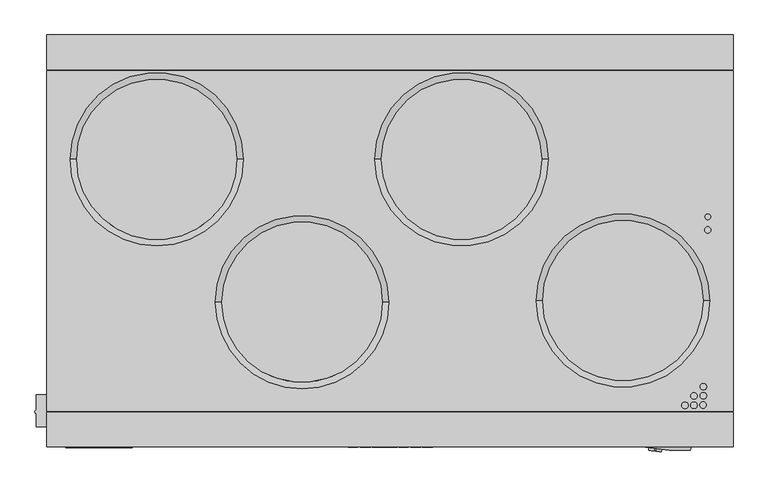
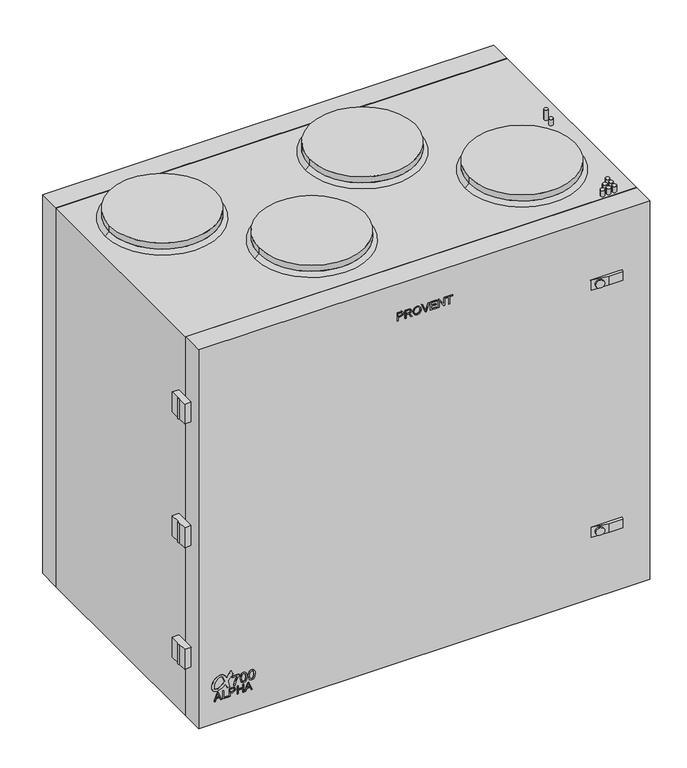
"""IFC4 building model written with IfcOpenShell, lengths in millimetres: proxy geometry, PROVENT_Вертикальная приточно-вытяжная установка_ALPHA 700 V_R : Provent ALPHA 700 V (R)."""

from ifc_helpers import new_model, si_unit, point, frame, frame_2d, origin, origin_with_axes, place, context, project, spatial, polyline, circle_curve, trimmed, segment, composite_curve, outline, extrude, faceted_brep, source, transform, mapped, element, save
from ifc_brep_helpers import plane_surface, revolved_surface, advanced_brep


def mechanical_equipment_19987ac5(model_context):
    return source(origin(), model_context, "Body", "SolidModel", [
        extrude(outline(composite_curve([segment(trimmed(circle_curve(frame_2d((105.733129, -469.7172285)), 0.5380284), [point((105.5307619, -469.2187086))], [point((105.5307619, -470.2157485))], True, "CARTESIAN"), True, "CONTINUOUS"), segment(polyline([(105.5307619, -470.2157485), (108.4438718, -471.3339866), (110.8786758, -472.5745812), (111.8121807, -473.2282283)]), True, "CONTINUOUS"), segment(trimmed(circle_curve(frame_2d((104.0893382, -483.1986343)), 12.6115539), [point((111.8121807, -473.2282283))], [point((116.6261852, -484.5693123))], False, "CARTESIAN"), True, "CONTINUOUS"), segment(trimmed(circle_curve(frame_2d((94.7661112, -482.1793077)), 21.9903379), [point((116.6261852, -484.5693123))], [point((104.4885666, -501.9036282))], False, "CARTESIAN"), True, "CONTINUOUS"), segment(trimmed(circle_curve(frame_2d((93.5739124, -483.3717485)), 21.5072137), [point((104.4885666, -501.9036282))], [point((86.750764, -503.7679464))], False, "CARTESIAN"), True, "CONTINUOUS"), segment(trimmed(circle_curve(frame_2d((92.3890877, -492.6444211)), 12.4709065), [point((86.750764, -503.7679464))], [point((79.9366704, -491.96559))], False, "CARTESIAN"), True, "CONTINUOUS"), segment(trimmed(circle_curve(frame_2d((110.0461474, -495.6698446)), 30.3364814), [point((79.9366704, -491.96559))], [point((90.1381753, -472.7793498))], False, "CARTESIAN"), True, "CONTINUOUS"), segment(polyline([(90.1381753, -472.7793498), (97.4533974, -475.1562096)]), True, "CONTINUOUS"), segment(trimmed(circle_curve(frame_2d((112.8376087, -500.6183522)), 29.7488598), [point((97.4533974, -475.1562096))], [point((85.9068624, -487.9799358))], True, "CARTESIAN"), True, "CONTINUOUS"), segment(trimmed(circle_curve(frame_2d((94.2043298, -491.873881)), 9.1657392), [point((85.9068624, -487.9799358))], [point((86.5295452, -496.8847148))], True, "CARTESIAN"), True, "CONTINUOUS"), segment(trimmed(circle_curve(frame_2d((91.0798658, -493.9138301)), 5.4342961), [point((86.5295452, -496.8847148))], [point((91.5402338, -499.3285909))], True, "CARTESIAN"), True, "CONTINUOUS"), segment(trimmed(circle_curve(frame_2d((91.5850962, -480.5773432)), 18.7513014), [point((91.5402338, -499.3285909))], [point((99.8454243, -497.4111866))], True, "CARTESIAN"), True, "CONTINUOUS"), segment(trimmed(circle_curve(frame_2d((91.1893595, -472.3485631)), 26.5153267), [point((99.8454243, -497.4111866))], [point((111.1844004, -489.7629506))], True, "CARTESIAN"), True, "CONTINUOUS"), segment(trimmed(circle_curve(frame_2d((105.8571487, -485.1232588)), 7.0644427), [point((111.1844004, -489.7629506))], [point((110.4868357, -479.7873101))], True, "CARTESIAN"), True, "CONTINUOUS"), segment(trimmed(circle_curve(frame_2d((74.7273898, -542.4080198)), 72.1116583), [point((110.4868357, -479.7873101))], [point((96.0155477, -473.5102289))], True, "CARTESIAN"), True, "CONTINUOUS"), segment(polyline([(96.0155477, -473.5102289), (80.1999436, -468.3714276), (80.1999436, -462.3371341), (94.9084674, -466.1382316)]), True, "CONTINUOUS"), segment(trimmed(circle_curve(frame_2d((95.7729921, -462.7929129)), 3.4552222), [point((94.9084674, -466.1382316))], [point((98.5138308, -464.8968055))], True, "CARTESIAN"), True, "CONTINUOUS"), segment(polyline([(98.5138308, -464.8968055), (109.4841363, -454.6668301)]), True, "CONTINUOUS"), segment(trimmed(circle_curve(frame_2d((110.1625275, -455.3943155)), 0.9947108), [point((109.4841363, -454.6668301))], [point((110.8409186, -454.6668301))], False, "CARTESIAN"), True, "CONTINUOUS"), segment(polyline([(110.8409186, -454.6668301), (118.9566741, -458.6251485)]), True, "CONTINUOUS"), segment(trimmed(circle_curve(frame_2d((118.472789, -458.9687429)), 0.593466), [point((118.9566741, -458.6251485))], [point((118.8242858, -459.4469185))], False, "CARTESIAN"), True, "CONTINUOUS"), segment(polyline([(118.8242858, -459.4469185), (105.5307619, -469.2187086)]), True, "CONTINUOUS")], self_intersect=False)), frame((0.0, -322.0, 0.0), z_axis=(0.0, 1.0, 0.0), x_axis=(0.0, 0.0, 1.0)), (0.0, 0.0, 1.0), 1.0),
        extrude(outline(polyline([(55.4809879, -499.5161911), (55.4809879, -496.8625356), (61.7595073, -494.566952), (61.7595073, -486.2920597), (55.4809879, -483.9915709), (55.4809879, -481.3379155), (75.57225, -489.3577429), (75.57225, -491.4963636), (55.4809879, -499.5161911)]), holes=[polyline([(64.2709151, -493.6447945), (69.6419922, -491.6778521), (73.0608422, -490.4270533), (69.210344, -489.0192915), (64.2709151, -487.2093121), (64.2709151, -493.6447945)])]), frame((0.0, -322.0, 0.0), z_axis=(0.0, 1.0, 0.0), x_axis=(0.0, 0.0, 1.0)), (0.0, 0.0, 1.0), 5.0),
        extrude(outline(polyline([(55.4809879, -478.6548294), (55.4809879, -466.0977907), (57.9923957, -466.0977907), (57.9923957, -476.1434217), (75.57225, -476.1434217), (75.57225, -478.6548294), (55.4809879, -478.6548294)])), frame((0.0, -322.0, 0.0), z_axis=(0.0, 1.0, 0.0), x_axis=(0.0, 0.0, 1.0)), (0.0, 0.0, 1.0), 5.0),
        extrude(outline(polyline([(55.4809879, -463.2724569), (55.4809879, -460.7610492), (63.6430631, -460.7610492), (63.6430631, -455.6548471), (65.4187069, -449.8202387), (69.7597144, -448.2040104), (72.499209, -448.8024318), (74.441626, -450.3843244), (75.3809513, -452.8246083), (75.57225, -455.8265254), (75.57225, -463.2724569), (55.4809879, -463.2724569)]), holes=[polyline([(66.1544709, -460.7610492), (73.0608422, -460.7610492), (73.0608422, -455.5665554), (72.8891639, -453.0551477), (71.7511823, -451.3604379), (69.6714228, -450.7154182), (67.0766284, -451.809254), (66.1544709, -455.5076943), (66.1544709, -460.7610492)])]), frame((0.0, -322.0, 0.0), z_axis=(0.0, 1.0, 0.0), x_axis=(0.0, 0.0, 1.0)), (0.0, 0.0, 1.0), 5.0),
        extrude(outline(polyline([(55.4809879, -444.7508248), (55.4809879, -442.239417), (64.898767, -442.239417), (64.898767, -431.5659341), (55.4809879, -431.5659341), (55.4809879, -429.0545263), (75.57225, -429.0545263), (75.57225, -431.5659341), (67.4101748, -431.5659341), (67.4101748, -442.239417), (75.57225, -442.239417), (75.57225, -444.7508248), (55.4809879, -444.7508248)])), frame((0.0, -322.0, 0.0), z_axis=(0.0, 1.0, 0.0), x_axis=(0.0, 0.0, 1.0)), (0.0, 0.0, 1.0), 5.0),
        extrude(outline(polyline([(55.4809879, -426.9992922), (55.4809879, -424.3456368), (61.7595073, -422.0500531), (61.7595073, -413.7751608), (55.4809879, -411.474672), (55.4809879, -408.8210166), (75.57225, -416.8408441), (75.57225, -418.9794647), (55.4809879, -426.9992922)]), holes=[polyline([(64.2709151, -421.1278956), (69.6419922, -419.1609532), (73.0608422, -417.9101544), (69.210344, -416.5023926), (64.2709151, -414.6924132), (64.2709151, -421.1278956)])]), frame((0.0, -322.0, 0.0), z_axis=(0.0, 1.0, 0.0), x_axis=(0.0, 0.0, 1.0)), (0.0, 0.0, 1.0), 5.0),
        extrude(outline(polyline([(101.1927708, -456.6535478), (101.1927708, -443.3116941), (94.6965879, -448.0573718), (86.6920888, -451.48174), (79.6103604, -452.7294731), (79.6103604, -449.5902135), (86.4345714, -448.4252538), (95.0399444, -444.8476014), (101.7936447, -440.1724344), (104.3320305, -440.1724344), (104.3320305, -456.6535478), (101.1927708, -456.6535478)])), frame((0.0, -322.0, 0.0), z_axis=(0.0, 1.0, 0.0), x_axis=(0.0, 0.0, 1.0)), (0.0, 0.0, 1.0), 5.0),
        extrude(outline(polyline([(91.9650641, -437.4255822), (81.6091859, -434.9239846), (79.2179529, -429.1850255), (80.5944447, -424.5895662), (84.7699054, -421.8580424), (91.9650641, -420.9444688), (97.8665044, -421.5146859), (101.5821126, -422.9862138), (103.9150975, -425.5184682), (104.7244379, -429.1850255), (103.3571432, -433.7620906), (99.1908796, -436.5028115), (91.9650641, -437.4255822)]), holes=[polyline([(91.9711954, -434.2863225), (99.9051838, -432.7657435), (101.5851782, -429.2218137), (99.6783232, -425.5062055), (91.9711954, -424.0837285), (84.1812942, -425.5552564), (82.3572126, -429.1850255), (84.1751628, -432.8147945), (91.9711954, -434.2863225)])]), frame((0.0, -322.0, 0.0), z_axis=(0.0, 1.0, 0.0), x_axis=(0.0, 0.0, 1.0)), (0.0, 0.0, 1.0), 5.0),
        extrude(outline(polyline([(91.9650641, -418.1976165), (81.6091859, -415.696019), (79.2179529, -409.9570598), (80.5944447, -405.3616006), (84.7699054, -402.6300768), (91.9650641, -401.7165032), (97.8665044, -402.2867202), (101.5821126, -403.7582482), (103.9150975, -406.2905026), (104.7244379, -409.9570598), (103.3571432, -414.534125), (99.1908796, -417.2748459), (91.9650641, -418.1976165)]), holes=[polyline([(91.9711954, -415.0583568), (99.9051838, -413.5377779), (101.5851782, -409.993848), (99.6783232, -406.2782399), (91.9711954, -404.8557628), (84.1812942, -406.3272908), (82.3572126, -409.9570598), (84.1751628, -413.5868289), (91.9711954, -415.0583568)])]), frame((0.0, -322.0, 0.0), z_axis=(0.0, 1.0, 0.0), x_axis=(0.0, 0.0, 1.0)), (0.0, 0.0, 1.0), 5.0),
        extrude(outline(polyline([(858.040157, -64.9826756), (858.040157, -62.4712679), (866.2022322, -62.4712679), (866.2022322, -57.3650658), (867.977876, -51.5304573), (872.3188835, -49.9142291), (875.0583781, -50.5126505), (877.0007951, -52.0945431), (877.9401204, -54.534827), (878.1314191, -57.536744), (878.1314191, -64.9826756), (858.040157, -64.9826756)]), holes=[polyline([(868.71364, -62.4712679), (875.6200113, -62.4712679), (875.6200113, -57.2767741), (875.448333, -54.7653663), (874.3103514, -53.0706566), (872.2305919, -52.4256369), (869.6357975, -53.5194727), (868.71364, -57.217913), (868.71364, -62.4712679)])]), frame((0.0, -322.0, 0.0), z_axis=(0.0, 1.0, 0.0), x_axis=(0.0, 0.0, 1.0)), (0.0, 0.0, 1.0), 5.0),
        extrude(outline(polyline([(858.040157, -46.4610434), (858.040157, -43.9496357), (866.8300842, -43.9496357), (866.2635459, -38.2670851), (864.9612436, -36.9402574), (862.2045812, -35.0517965), (858.040157, -32.4373818), (858.040157, -29.5188513), (863.4848106, -32.86903), (866.0697947, -34.9046437), (867.1440101, -36.3320258), (869.0128507, -32.1259084), (872.6328095, -30.764745), (875.6715148, -31.5863481), (877.5894063, -33.7838299), (878.1314191, -37.8035538), (878.1314191, -46.4610434), (858.040157, -46.4610434)]), holes=[polyline([(869.3414919, -43.9496357), (875.6200113, -43.9496357), (875.6200113, -37.6956418), (874.7518098, -34.3381054), (872.5396127, -33.2761527), (870.8350928, -33.8328808), (869.6971112, -35.4613718), (869.3414919, -38.3283988), (869.3414919, -43.9496357)])]), frame((0.0, -322.0, 0.0), z_axis=(0.0, 1.0, 0.0), x_axis=(0.0, 0.0, 1.0)), (0.0, 0.0, 1.0), 5.0),
        extrude(outline(polyline([(867.820913, -27.3115593), (862.8201704, -26.1637675), (859.0922995, -22.7890633), (857.7262311, -17.7368173), (858.9623146, -12.8734173), (862.6018938, -9.3908011), (868.0514524, -8.1620752), (873.4274346, -9.3294874), (877.1209698, -12.7238119), (878.445345, -17.722102), (875.6249164, -24.6333784), (867.820913, -27.3115593)]), holes=[polyline([(867.7963875, -24.8001516), (874.0577391, -22.7056767), (875.9339373, -17.7073867), (874.9602763, -14.0212091), (872.2158766, -11.5269692), (868.0710728, -10.673483), (862.2781576, -12.6674034), (860.2376388, -17.7515325), (862.2585372, -22.7915159), (867.7963875, -24.8001516)])]), frame((0.0, -322.0, 0.0), z_axis=(0.0, 1.0, 0.0), x_axis=(0.0, 0.0, 1.0)), (0.0, 0.0, 1.0), 5.0),
        extrude(outline(polyline([(858.040157, 1.2262733), (858.040157, 3.8210677), (878.1314191, 11.4779182), (878.1314191, 8.7899271), (863.6564888, 3.4237551), (860.3946018, 2.3544448), (863.6564888, 1.2704192), (878.1314191, -4.0810376), (878.1314191, -6.7690287), (858.040157, 1.2262733)])), frame((0.0, -322.0, 0.0), z_axis=(0.0, 1.0, 0.0), x_axis=(0.0, 0.0, 1.0)), (0.0, 0.0, 1.0), 5.0),
        extrude(outline(polyline([(858.040157, 13.8127426), (858.040157, 28.5672632), (860.5515648, 28.5672632), (860.5515648, 16.3241504), (867.1440101, 16.3241504), (867.1440101, 27.6254853), (869.6554179, 27.6254853), (869.6554179, 16.3241504), (875.6200113, 16.3241504), (875.6200113, 28.2533372), (878.1314191, 28.2533372), (878.1314191, 13.8127426), (858.040157, 13.8127426)])), frame((0.0, -322.0, 0.0), z_axis=(0.0, 1.0, 0.0), x_axis=(0.0, 0.0, 1.0)), (0.0, 0.0, 1.0), 5.0),
        extrude(outline(polyline([(858.040157, 32.3343748), (858.040157, 34.8457826), (873.9620898, 34.8457826), (858.040157, 45.3426822), (858.040157, 48.0306733), (878.1314191, 48.0306733), (878.1314191, 45.5192655), (862.2143914, 45.5192655), (878.1314191, 35.0223659), (878.1314191, 32.3343748), (858.040157, 32.3343748)])), frame((0.0, -322.0, 0.0), z_axis=(0.0, 1.0, 0.0), x_axis=(0.0, 0.0, 1.0)), (0.0, 0.0, 1.0), 5.0),
        extrude(outline(polyline([(858.040157, 57.4484524), (858.040157, 59.9598601), (875.6200113, 59.9598601), (875.6200113, 66.5523055), (878.1314191, 66.5523055), (878.1314191, 50.856007), (875.6200113, 50.856007), (875.6200113, 57.4484524), (858.040157, 57.4484524)])), frame((0.0, -322.0, 0.0), z_axis=(0.0, 1.0, 0.0), x_axis=(0.0, 0.0, 1.0)), (0.0, 0.0, 1.0), 5.0),
        extrude(outline(composite_curve([segment(trimmed(circle_curve(frame_2d((495.5549535, 37.5161614)), 4.363615), [point((491.1913384, 37.5161614))], [point((499.9185685, 37.5161614))], False, "CARTESIAN"), True, "CONTINUOUS"), segment(trimmed(circle_curve(frame_2d((495.5549535, 37.5161614)), 4.363615), [point((499.9185685, 37.5161614))], [point((491.1913384, 37.5161614))], False, "CARTESIAN"), True, "CONTINUOUS")], self_intersect=False)), frame((0.0, 0.0, 950.0), z_axis=(0.0, 0.0, 1.0), x_axis=(1.0, 0.0, 0.0)), (0.0, 0.0, 1.0), 26.0),
        extrude(outline(composite_curve([segment(trimmed(circle_curve(frame_2d((495.5549535, 17.0594523)), 5.0), [point((490.5549535, 17.0594523))], [point((500.5549535, 17.0594523))], False, "CARTESIAN"), True, "CONTINUOUS"), segment(trimmed(circle_curve(frame_2d((495.5549535, 17.0594523)), 5.0), [point((500.5549535, 17.0594523))], [point((490.5549535, 17.0594523))], False, "CARTESIAN"), True, "CONTINUOUS")], self_intersect=False)), frame((0.0, 0.0, 950.0), z_axis=(0.0, 0.0, 1.0), x_axis=(1.0, 0.0, 0.0)), (0.0, 0.0, 1.0), 15.0),
        extrude(outline(composite_curve([segment(trimmed(circle_curve(frame_2d((488.6799535, -241.3585618)), 5.0), [point((483.6799535, -241.3585618))], [point((493.6799535, -241.3585618))], False, "CARTESIAN"), True, "CONTINUOUS"), segment(trimmed(circle_curve(frame_2d((488.6799535, -241.3585618)), 5.0), [point((493.6799535, -241.3585618))], [point((483.6799535, -241.3585618))], False, "CARTESIAN"), True, "CONTINUOUS")], self_intersect=False)), frame((0.0, 0.0, 950.0), z_axis=(0.0, 0.0, 1.0), x_axis=(1.0, 0.0, 0.0)), (0.0, 0.0, 1.0), 15.0),
        extrude(outline(composite_curve([segment(trimmed(circle_curve(frame_2d((473.9405338, -256.2023118)), 5.0), [point((468.9405338, -256.2023118))], [point((478.9405338, -256.2023118))], False, "CARTESIAN"), True, "CONTINUOUS"), segment(trimmed(circle_curve(frame_2d((473.9405338, -256.2023118)), 5.0), [point((478.9405338, -256.2023118))], [point((468.9405338, -256.2023118))], False, "CARTESIAN"), True, "CONTINUOUS")], self_intersect=False)), frame((0.0, 0.0, 950.0), z_axis=(0.0, 0.0, 1.0), x_axis=(1.0, 0.0, 0.0)), (0.0, 0.0, 1.0), 15.0),
        extrude(outline(composite_curve([segment(trimmed(circle_curve(frame_2d((459.9299535, -256.3585618)), 5.0), [point((454.9299535, -256.3585618))], [point((464.9299535, -256.3585618))], False, "CARTESIAN"), True, "CONTINUOUS"), segment(trimmed(circle_curve(frame_2d((459.9299535, -256.3585618)), 5.0), [point((464.9299535, -256.3585618))], [point((454.9299535, -256.3585618))], False, "CARTESIAN"), True, "CONTINUOUS")], self_intersect=False)), frame((0.0, 0.0, 950.0), z_axis=(0.0, 0.0, 1.0), x_axis=(1.0, 0.0, 0.0)), (0.0, 0.0, 1.0), 15.0),
        extrude(outline(composite_curve([segment(trimmed(circle_curve(frame_2d((488.6799535, -227.2960618)), 5.0), [point((483.6799535, -227.2960618))], [point((493.6799535, -227.2960618))], False, "CARTESIAN"), True, "CONTINUOUS"), segment(trimmed(circle_curve(frame_2d((488.6799535, -227.2960618)), 5.0), [point((493.6799535, -227.2960618))], [point((483.6799535, -227.2960618))], False, "CARTESIAN"), True, "CONTINUOUS")], self_intersect=False)), frame((0.0, 0.0, 950.0), z_axis=(0.0, 0.0, 1.0), x_axis=(1.0, 0.0, 0.0)), (0.0, 0.0, 1.0), 15.0),
        extrude(outline(composite_curve([segment(trimmed(circle_curve(frame_2d((488.120726, -255.7335618)), 5.0), [point((483.120726, -255.7335618))], [point((493.120726, -255.7335618))], False, "CARTESIAN"), True, "CONTINUOUS"), segment(trimmed(circle_curve(frame_2d((488.120726, -255.7335618)), 5.0), [point((493.120726, -255.7335618))], [point((483.120726, -255.7335618))], False, "CARTESIAN"), True, "CONTINUOUS")], self_intersect=False)), frame((0.0, 0.0, 950.0), z_axis=(0.0, 0.0, 1.0), x_axis=(1.0, 0.0, 0.0)), (0.0, 0.0, 1.0), 15.0),
        extrude(outline(composite_curve([segment(trimmed(circle_curve(frame_2d((473.9405338, -241.5938936)), 5.0), [point((468.9405338, -241.5938936))], [point((478.9405338, -241.5938936))], False, "CARTESIAN"), True, "CONTINUOUS"), segment(trimmed(circle_curve(frame_2d((473.9405338, -241.5938936)), 5.0), [point((478.9405338, -241.5938936))], [point((468.9405338, -241.5938936))], False, "CARTESIAN"), True, "CONTINUOUS")], self_intersect=False)), frame((0.0, 0.0, 950.0), z_axis=(0.0, 0.0, 1.0), x_axis=(1.0, 0.0, 0.0)), (0.0, 0.0, 1.0), 15.0),
        extrude(outline(composite_curve([segment(trimmed(circle_curve(frame_2d((363.25, -93.0)), 125.0), [point((238.25, -93.0))], [point((488.25, -93.0))], False, "CARTESIAN"), True, "CONTINUOUS"), segment(trimmed(circle_curve(frame_2d((363.25, -93.0)), 125.0), [point((488.25, -93.0))], [point((238.25, -93.0))], False, "CARTESIAN"), True, "CONTINUOUS")], self_intersect=False)), frame((0.0, 0.0, 958.5199387), z_axis=(0.0, 0.0, 1.0), x_axis=(1.0, 0.0, 0.0)), (0.0, 0.0, 1.0), 15.0),
        advanced_brep(
        [(238.25, -93.0, 958.5199387), (488.25, -93.0, 958.5199387), (228.25, -93.0, 950.0), (498.25, -93.0, 950.0)],
        [
            (0, 1, circle_curve(frame((363.25, -93.0, 958.5199387), z_axis=(0.0, 0.0, 1.0), x_axis=(-1.0, 0.0, 0.0)), 125.0)),
            (1, 0, circle_curve(frame((363.25, -93.0, 958.5199387), z_axis=(0.0, 0.0, 1.0), x_axis=(1.0, 0.0, 0.0)), 125.0)),
            (2, 3, circle_curve(frame((363.25, -93.0, 950.0), z_axis=(0.0, 0.0, -1.0), x_axis=(1.0, 0.0, 0.0)), 135.0)),
            (3, 2, circle_curve(frame((363.25, -93.0, 950.0), z_axis=(0.0, 0.0, -1.0), x_axis=(-1.0, 0.0, 0.0)), 135.0)),
            (3, 1),
            (0, 2),
        ],
        [
            plane_surface(frame((363.25, -93.0, 958.5199387), z_axis=(0.0, 0.0, 1.0), x_axis=(0.0, -1.0, 0.0))),
            plane_surface(frame((363.25, -93.0, 950.0), z_axis=(0.0, 0.0, -1.0), x_axis=(0.0, -1.0, 0.0))),
            revolved_surface(polyline([(238.2500000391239, -93.0, 958.5199387), (228.25, -93.0, 950.0)]), (363.25, -93.0, 1065.019172), (0.0, 0.0, -1.0)),
            revolved_surface(polyline([(488.2499999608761, -93.0, 958.5199387), (498.25, -93.0, 950.0)]), (363.25, -93.0, 1065.019172), (0.0, 0.0, -1.0)),
        ],
        [
            (0, [[1, 2]]),
            (1, [[3, 4]]),
            (2, [[-4, 5, -1, 6]]),
            (3, [[-3, -6, -2, -5]]),
        ],
    ),
        extrude(outline(composite_curve([segment(trimmed(circle_curve(frame_2d((-136.75, -95.5)), 125.0), [point((-261.75, -95.5))], [point((-11.75, -95.5))], False, "CARTESIAN"), True, "CONTINUOUS"), segment(trimmed(circle_curve(frame_2d((-136.75, -95.5)), 125.0), [point((-11.75, -95.5))], [point((-261.75, -95.5))], False, "CARTESIAN"), True, "CONTINUOUS")], self_intersect=False)), frame((0.0, 0.0, 958.5199387), z_axis=(0.0, 0.0, 1.0), x_axis=(1.0, 0.0, 0.0)), (0.0, 0.0, 1.0), 15.0),
        advanced_brep(
        [(-261.75, -95.5, 958.5199387), (-11.75, -95.5, 958.5199387), (-271.75, -95.5, 950.0), (-1.75, -95.5, 950.0)],
        [
            (0, 1, circle_curve(frame((-136.75, -95.5, 958.5199387), z_axis=(0.0, 0.0, 1.0), x_axis=(-1.0, 0.0, 0.0)), 125.0)),
            (1, 0, circle_curve(frame((-136.75, -95.5, 958.5199387), z_axis=(0.0, 0.0, 1.0), x_axis=(1.0, 0.0, 0.0)), 125.0)),
            (2, 3, circle_curve(frame((-136.75, -95.5, 950.0), z_axis=(0.0, 0.0, -1.0), x_axis=(1.0, 0.0, 0.0)), 135.0)),
            (3, 2, circle_curve(frame((-136.75, -95.5, 950.0), z_axis=(0.0, 0.0, -1.0), x_axis=(-1.0, 0.0, 0.0)), 135.0)),
            (3, 1),
            (0, 2),
        ],
        [
            plane_surface(frame((-136.75, -95.5, 958.5199387), z_axis=(0.0, 0.0, 1.0), x_axis=(0.0, -1.0, 0.0))),
            plane_surface(frame((-136.75, -95.5, 950.0), z_axis=(0.0, 0.0, -1.0), x_axis=(0.0, -1.0, 0.0))),
            revolved_surface(polyline([(-261.7499999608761, -95.5, 958.5199387), (-271.75, -95.5, 950.0)]), (-136.75, -95.5, 1065.019172), (0.0, 0.0, -1.0)),
            revolved_surface(polyline([(-11.750000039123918, -95.5, 958.5199387), (-1.75, -95.5, 950.0)]), (-136.75, -95.5, 1065.019172), (0.0, 0.0, -1.0)),
        ],
        [
            (0, [[1, 2]]),
            (1, [[3, 4]]),
            (2, [[-4, 5, -1, 6]]),
            (3, [[-3, -6, -2, -5]]),
        ],
    ),
        extrude(outline(composite_curve([segment(trimmed(circle_curve(frame_2d((-363.25, 127.0881439)), 125.0), [point((-488.25, 127.0881439))], [point((-238.25, 127.0881439))], False, "CARTESIAN"), True, "CONTINUOUS"), segment(trimmed(circle_curve(frame_2d((-363.25, 127.0881439)), 125.0), [point((-238.25, 127.0881439))], [point((-488.25, 127.0881439))], False, "CARTESIAN"), True, "CONTINUOUS")], self_intersect=False)), frame((0.0, 0.0, 958.5199387), z_axis=(0.0, 0.0, 1.0), x_axis=(1.0, 0.0, 0.0)), (0.0, 0.0, 1.0), 15.0),
        advanced_brep(
        [(-488.25, 127.0881439, 958.5199387), (-238.25, 127.0881439, 958.5199387), (-498.25, 127.0881439, 950.0), (-228.25, 127.0881439, 950.0)],
        [
            (0, 1, circle_curve(frame((-363.25, 127.0881439, 958.5199387), z_axis=(0.0, 0.0, 1.0), x_axis=(-1.0, 0.0, 0.0)), 125.0)),
            (1, 0, circle_curve(frame((-363.25, 127.0881439, 958.5199387), z_axis=(0.0, 0.0, 1.0), x_axis=(1.0, 0.0, 0.0)), 125.0)),
            (2, 3, circle_curve(frame((-363.25, 127.0881439, 950.0), z_axis=(0.0, 0.0, -1.0), x_axis=(1.0, 0.0, 0.0)), 135.0)),
            (3, 2, circle_curve(frame((-363.25, 127.0881439, 950.0), z_axis=(0.0, 0.0, -1.0), x_axis=(-1.0, 0.0, 0.0)), 135.0)),
            (3, 1),
            (0, 2),
        ],
        [
            plane_surface(frame((-363.25, 127.0881439, 958.5199387), z_axis=(0.0, 0.0, 1.0), x_axis=(0.0, -1.0, 0.0))),
            plane_surface(frame((-363.25, 127.0881439, 950.0), z_axis=(0.0, 0.0, -1.0), x_axis=(0.0, -1.0, 0.0))),
            revolved_surface(polyline([(-488.2499999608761, 127.0881439, 958.5199387), (-498.25, 127.0881439, 950.0)]), (-363.25, 127.0881439, 1065.019172), (0.0, 0.0, -1.0)),
            revolved_surface(polyline([(-238.2500000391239, 127.0881439, 958.5199387), (-228.25, 127.0881439, 950.0)]), (-363.25, 127.0881439, 1065.019172), (0.0, 0.0, -1.0)),
        ],
        [
            (0, [[1, 2]]),
            (1, [[3, 4]]),
            (2, [[-4, 5, -1, 6]]),
            (3, [[-3, -6, -2, -5]]),
        ],
    ),
        extrude(outline(composite_curve([segment(trimmed(circle_curve(frame_2d((111.75, 127.0881439)), 125.0), [point((-13.25, 127.0881439))], [point((236.75, 127.0881439))], False, "CARTESIAN"), True, "CONTINUOUS"), segment(trimmed(circle_curve(frame_2d((111.75, 127.0881439)), 125.0), [point((236.75, 127.0881439))], [point((-13.25, 127.0881439))], False, "CARTESIAN"), True, "CONTINUOUS")], self_intersect=False)), frame((0.0, 0.0, 958.5199387), z_axis=(0.0, 0.0, 1.0), x_axis=(1.0, 0.0, 0.0)), (0.0, 0.0, 1.0), 15.0),
        advanced_brep(
        [(-13.25, 127.0881439, 958.5199387), (236.75, 127.0881439, 958.5199387), (-23.25, 127.0881439, 950.0), (246.75, 127.0881439, 950.0)],
        [
            (0, 1, circle_curve(frame((111.75, 127.0881439, 958.5199387), z_axis=(0.0, 0.0, 1.0), x_axis=(-1.0, 0.0, 0.0)), 125.0)),
            (1, 0, circle_curve(frame((111.75, 127.0881439, 958.5199387), z_axis=(0.0, 0.0, 1.0), x_axis=(1.0, 0.0, 0.0)), 125.0)),
            (2, 3, circle_curve(frame((111.75, 127.0881439, 950.0), z_axis=(0.0, 0.0, -1.0), x_axis=(1.0, 0.0, 0.0)), 135.0)),
            (3, 2, circle_curve(frame((111.75, 127.0881439, 950.0), z_axis=(0.0, 0.0, -1.0), x_axis=(-1.0, 0.0, 0.0)), 135.0)),
            (3, 1),
            (0, 2),
        ],
        [
            plane_surface(frame((111.75, 127.0881439, 958.5199387), z_axis=(0.0, 0.0, 1.0), x_axis=(0.0, -1.0, 0.0))),
            plane_surface(frame((111.75, 127.0881439, 950.0), z_axis=(0.0, 0.0, -1.0), x_axis=(0.0, -1.0, 0.0))),
            revolved_surface(polyline([(-13.249999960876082, 127.0881439, 958.5199387), (-23.25, 127.0881439, 950.0)]), (111.75, 127.0881439, 1065.019172), (0.0, 0.0, -1.0)),
            revolved_surface(polyline([(236.7499999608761, 127.0881439, 958.5199387), (246.75, 127.0881439, 950.0)]), (111.75, 127.0881439, 1065.019172), (0.0, 0.0, -1.0)),
        ],
        [
            (0, [[1, 2]]),
            (1, [[3, 4]]),
            (2, [[-4, 5, -1, 6]]),
            (3, [[-3, -6, -2, -5]]),
        ],
    ),
        extrude(outline(polyline([(-535.0, 264.818014), (535.0, 264.818014), (535.0, -265.61), (-535.0, -265.61), (-535.0, 264.818014)])), origin_with_axes(), (0.0, 0.0, 1.0), 950.0),
        extrude(outline(polyline([(-535.0, -267.418014), (535.0, -267.418014), (535.0, -321.0), (-535.0, -321.0), (-535.0, -267.418014)])), origin_with_axes(), (0.0, 0.0, 1.0), 950.0),
        extrude(outline(polyline([(-535.0, 321.0), (535.0, 321.0), (535.0, 266.818014), (-535.0, 266.818014), (-535.0, 321.0)])), origin_with_axes(), (0.0, 0.0, 1.0), 950.0),
        extrude(outline(composite_curve([segment(polyline([(-551.0, -289.918014), (-551.0, -268.8875225)]), True, "CONTINUOUS"), segment(trimmed(circle_curve(frame_2d((-550.5566135, -266.3602375)), 2.565884), [point((-551.0, -268.8875225))], [point((-551.196739, -263.875484))], False, "CARTESIAN"), True, "CONTINUOUS"), segment(polyline([(-551.196739, -263.875484), (-551.196739, -239.918014), (-535.0, -239.918014), (-535.0, -289.918014), (-551.0, -289.918014)]), True, "CONTINUOUS")], self_intersect=False)), frame((0.0, 0.0, 440.9885126), z_axis=(0.0, 0.0, 1.0), x_axis=(1.0, 0.0, 0.0)), (0.0, 0.0, 1.0), 50.0),
        extrude(outline(composite_curve([segment(polyline([(-551.0, -289.918014), (-551.0, -268.8875225)]), True, "CONTINUOUS"), segment(trimmed(circle_curve(frame_2d((-550.5566135, -266.3602375)), 2.565884), [point((-551.0, -268.8875225))], [point((-551.196739, -263.875484))], False, "CARTESIAN"), True, "CONTINUOUS"), segment(polyline([(-551.196739, -263.875484), (-551.196739, -239.918014), (-535.0, -239.918014), (-535.0, -289.918014), (-551.0, -289.918014)]), True, "CONTINUOUS")], self_intersect=False)), frame((0.0, 0.0, 750.9885126), z_axis=(0.0, 0.0, 1.0), x_axis=(1.0, 0.0, 0.0)), (0.0, 0.0, 1.0), 50.0),
        extrude(outline(composite_curve([segment(polyline([(-551.0, -289.918014), (-551.0, -268.8875225)]), True, "CONTINUOUS"), segment(trimmed(circle_curve(frame_2d((-550.5566135, -266.3602375)), 2.565884), [point((-551.0, -268.8875225))], [point((-551.196739, -263.875484))], False, "CARTESIAN"), True, "CONTINUOUS"), segment(polyline([(-551.196739, -263.875484), (-551.196739, -239.918014), (-535.0, -239.918014), (-535.0, -289.918014), (-551.0, -289.918014)]), True, "CONTINUOUS")], self_intersect=False)), frame((0.0, 0.0, 135.9885126), z_axis=(0.0, 0.0, 1.0), x_axis=(1.0, 0.0, 0.0)), (0.0, 0.0, 1.0), 50.0),
        extrude(outline(composite_curve([segment(polyline([(-1.832016, 0.0), (0.0, 0.0)]), True, "CONTINUOUS"), segment(trimmed(circle_curve(frame_2d((0.0, -9.1119152)), 9.1119152), [point((0.0, 0.0))], [point((0.0, -18.2238304))], False, "CARTESIAN"), True, "CONTINUOUS"), segment(polyline([(0.0, -18.2238304), (-1.832016, -18.2238304)]), True, "CONTINUOUS"), segment(trimmed(circle_curve(frame_2d((-1.832016, -9.1119152)), 9.1119152), [point((-1.832016, -18.2238304))], [point((-1.832016, 0.0))], False, "CARTESIAN"), True, "CONTINUOUS")], self_intersect=False)), frame((412.5340697, -327.2971851, 175.6836071), z_axis=(0.11489459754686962, 0.9933776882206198, 0.0), x_axis=(-0.9933776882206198, 0.11489459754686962, 0.0)), (0.0, 0.0, 1.0), 3.9271589),
        faceted_brep([(468.0331772, -326.0, 177.5291022), (435.4991541, -326.0, 177.5291022), (435.4991541, -326.0, 156.2166489), (468.0331772, -326.0, 156.2166489), (469.5161654, -321.0, 180.2463053), (469.5161654, -321.0, 153.9074374), (392.2691977, -321.0, 153.9074374), (392.2691977, -321.0, 180.2463053)], [[[0, 1, 2, 3]], [[4, 5, 6, 7]], [[4, 7, 1, 0]], [[7, 6, 2, 1]], [[6, 5, 3, 2]], [[5, 4, 0, 3]]]),
        extrude(outline(composite_curve([segment(polyline([(-1.832016, 0.0), (0.0, 0.0)]), True, "CONTINUOUS"), segment(trimmed(circle_curve(frame_2d((0.0, -9.1119152)), 9.1119152), [point((0.0, 0.0))], [point((0.0, -18.2238304))], False, "CARTESIAN"), True, "CONTINUOUS"), segment(polyline([(0.0, -18.2238304), (-1.832016, -18.2238304)]), True, "CONTINUOUS"), segment(trimmed(circle_curve(frame_2d((-1.832016, -9.1119152)), 9.1119152), [point((-1.832016, -18.2238304))], [point((-1.832016, 0.0))], False, "CARTESIAN"), True, "CONTINUOUS")], self_intersect=False)), frame((412.5340697, -327.2971851, 795.6836071), z_axis=(0.11489459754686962, 0.9933776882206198, 0.0), x_axis=(-0.9933776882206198, 0.11489459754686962, 0.0)), (0.0, 0.0, 1.0), 3.9271589),
        faceted_brep([(468.0331772, -326.0, 797.5291022), (435.4991541, -326.0, 797.5291022), (435.4991541, -326.0, 776.2166489), (468.0331772, -326.0, 776.2166489), (469.5161654, -321.0, 800.2463053), (469.5161654, -321.0, 773.9074374), (392.2691977, -321.0, 773.9074374), (392.2691977, -321.0, 800.2463053)], [[[0, 1, 2, 3]], [[4, 5, 6, 7]], [[4, 7, 1, 0]], [[7, 6, 2, 1]], [[6, 5, 3, 2]], [[5, 4, 0, 3]]]),
    ])


if __name__ == "__main__":
    model = new_model("IFC4")
    model_context = context("Model", 3, world=origin())
    ifc_project = project(units=[si_unit("LENGTHUNIT", "METRE", prefix="MILLI")], contexts=[model_context])
    site = spatial("IfcSite", under=ifc_project)
    building = spatial("IfcBuilding", under=site)
    placement = place(None, origin())
    mechanical_equipment_shape = mechanical_equipment_19987ac5(model_context)
    element("IfcBuildingElementProxy", 1, Name="PROVENT_Вертикальная приточно-вытяжная установка_ALPHA 700 V_R : Provent ALPHA 700 V (R)", ObjectType="PROVENT_Вертикальная приточно-вытяжная установка_ALPHA 700 V_R : Provent ALPHA 700 V (R)", at=placement, inside=building, context=model_context, shape_type="MappedRepresentation", body=[
        mapped(mechanical_equipment_shape, transform((0.0, 0.0, 0.0), x_axis=(1.0, 0.0, 0.0), y_axis=(0.0, 1.0, 0.0), z_axis=(0.0, 0.0, 1.0))),
    ])
    save(model, "model.ifc")
